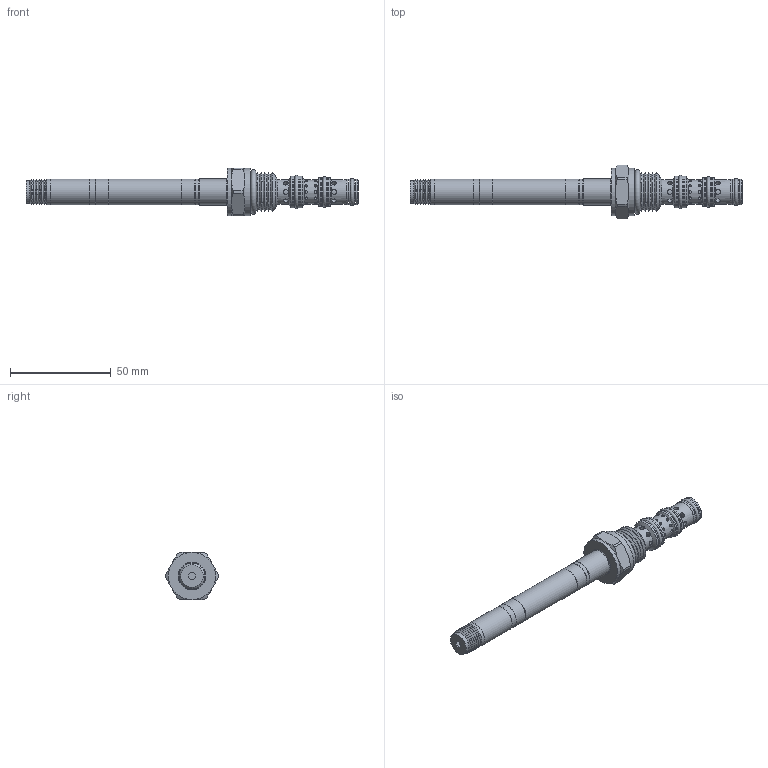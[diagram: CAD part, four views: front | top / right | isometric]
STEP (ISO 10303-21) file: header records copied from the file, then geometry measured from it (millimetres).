
FILE_DESCRIPTION(/* description */ (''),/* implementation_level */ '2;1');
FILE_NAME(/* name */ 'Q:\Delta CADD Insertion Codes\3D Solid models\Solenoid Valves\DWG\HPQS4N00.stp',/* time_stamp */ '2023-01-05T16:04:16-06:00',/* author */ ('Dan'),/* organization */ (''),/* preprocessor_version */ 'ST-DEVELOPER v17',/* originating_system */ 'Autodesk Inventor 2019',/* authorisation */ '');
FILE_SCHEMA (('AUTOMOTIVE_DESIGN { 1 0 10303 214 3 1 1 }'));
Length unit declared in the file: inch
Products named in the file (1): HPQS4N00
Bounding box: 164.87 x 26.49 x 23.55 mm (x, y, z)
Volume: 26726.1 mm3; surface area: 11527.7 mm2
Topology: 11 solids, 11 shells, 227 faces, 600 edges, 438 vertices
Faces by surface type: cylinder 124, cone 54, plane 41, torus 8
Full cylindrical faces by diameter (mm): 1.321 x24, 2.337 x16, 7.948 x1, 9.881 x1, 9.931 x2, 11.125 x1, 11.455 x1, 11.506 x2, 12.256 x3, 12.624 x4, 12.675 x3, 12.7 x1, 12.776 x3, 13.005 x1, 13.056 x1, 13.106 x2, 14.199 x4, 15.799 x5, 16.739 x1, 23.546 x2
Entity records: 9727 total; most frequent: CARTESIAN_POINT 4038, ORIENTED_EDGE 1200, DIRECTION 1126, EDGE_CURVE 600, AXIS2_PLACEMENT_3D 486, VERTEX_POINT 438, EDGE_LOOP 290, CIRCLE 258
